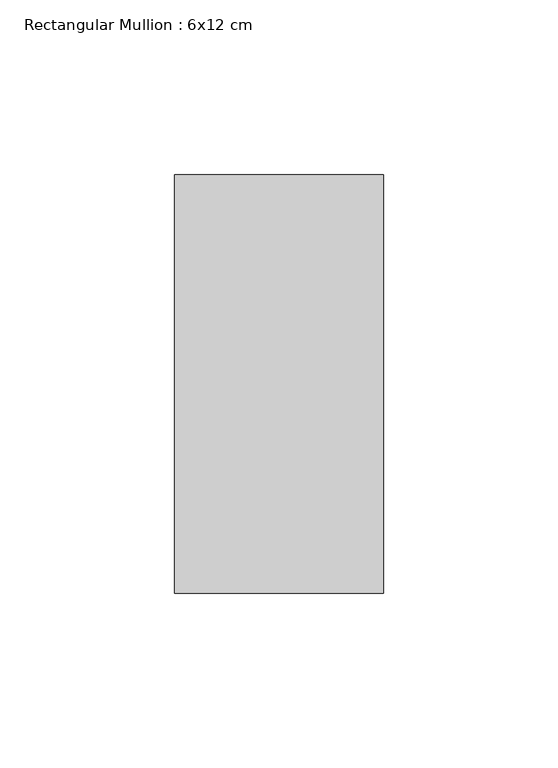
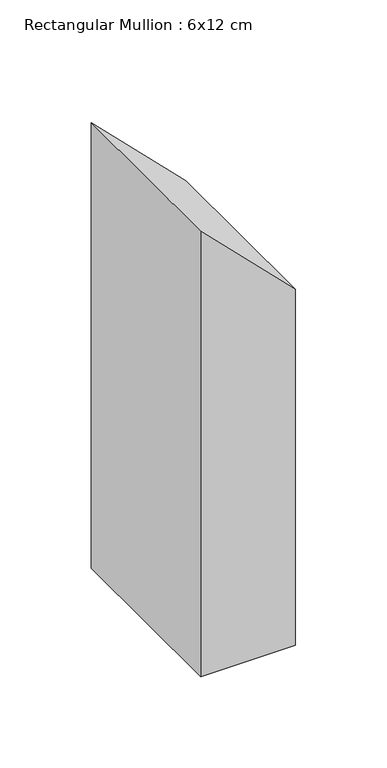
"""IFC4 building model written with IfcOpenShell, lengths in millimetres: member geometry, Rectangular Mullion : 6x12 cm."""

from ifc_helpers import new_model, si_unit, frame, origin, place, context, project, spatial, polyline, outline, extrude, source, transform, mapped, element, save


def rectangular_mullion_6x12_cm_5b5cfc50(model_context):
    return source(origin(), model_context, "Body", "SweptSolid", [
        extrude(outline(polyline([(-114.7535627, 30.0), (-54.8358015, -30.0), (-353.1153395, -30.0), (-353.1153395, 30.0), (-114.7535627, 30.0)])), frame((0.0, 85.0, 0.0), z_axis=(0.0, 1.0, 0.0), x_axis=(0.0, 0.0, 1.0)), (0.0, 0.0, 1.0), 120.0),
    ])


if __name__ == "__main__":
    model = new_model("IFC4")
    model_context = context("Model", 3, world=origin())
    ifc_project = project(units=[si_unit("LENGTHUNIT", "METRE", prefix="MILLI")], contexts=[model_context])
    site = spatial("IfcSite", under=ifc_project)
    building = spatial("IfcBuilding", under=site)
    placement = place(None, origin())
    rectangular_mullion_6x12_cm_shape = rectangular_mullion_6x12_cm_5b5cfc50(model_context)
    element("IfcMember", 1, ObjectType="Rectangular Mullion : 6x12 cm", at=placement, inside=building, context=model_context, shape_type="MappedRepresentation", body=[
        mapped(rectangular_mullion_6x12_cm_shape, transform((0.0, 0.0, 0.0), x_axis=(1.0, 0.0, 0.0), y_axis=(0.0, 1.0, 0.0), z_axis=(0.0, 0.0, 1.0))),
    ])
    save(model, "model.ifc")
